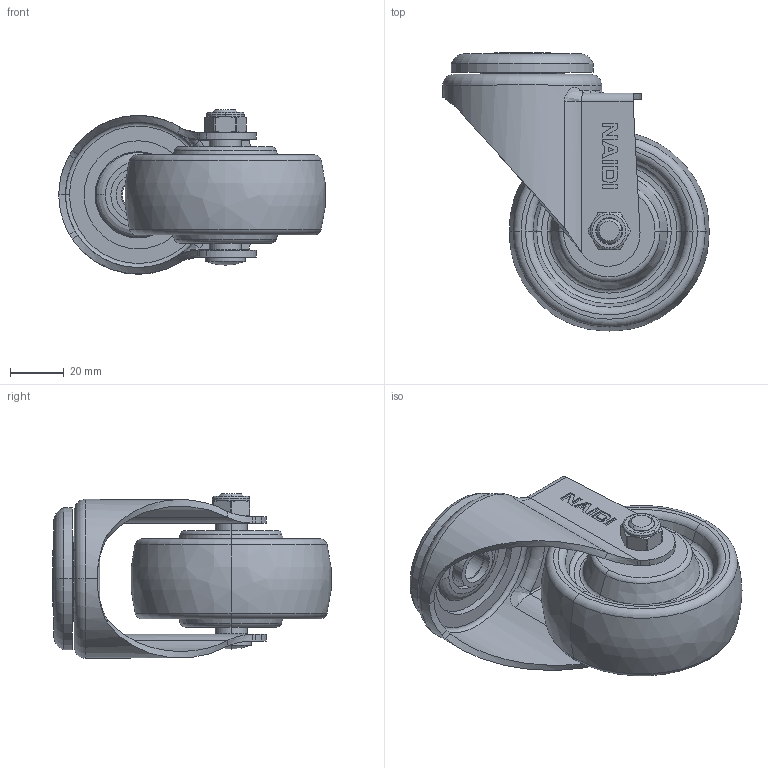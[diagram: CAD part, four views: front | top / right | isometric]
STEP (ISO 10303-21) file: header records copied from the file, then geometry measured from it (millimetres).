
FILE_DESCRIPTION((''),'2;1');
FILE_NAME('C54173_ASM','2024-10-10T',('Lenovo'),(''),'PRO/ENGINEER BY PARAMETRIC TECHNOLOGY CORPORATION, 2010280','PRO/ENGINEER BY PARAMETRIC TECHNOLOGY CORPORATION, 2010280','');
FILE_SCHEMA(('CONFIG_CONTROL_DESIGN'));
Length unit declared in the file: millimetre
Products named in the file (8): C543-11; 540-27; C540-03; C543-906; 500-54; 5710-020; 5710-031; C54173_ASM
Assembly tree (7 placements, depth 2):
  C54173_ASM
    C543-11
    540-27
    C540-03
    C543-906
    500-54
    5710-020
    5710-031
Bounding box: 99.47 x 103.81 x 61.4 mm (x, y, z)
Volume: 154111.6 mm3; surface area: 49600 mm2
Topology: 7 solids, 7 shells, 241 faces, 550 edges, 337 vertices
Faces by surface type: plane 90, cylinder 57, torus 38, cone 32, bspline 14, extrusion 8, sphere 2
Entity records: 8787 total; most frequent: CARTESIAN_POINT 3150, DIRECTION 1188, ORIENTED_EDGE 1096, EDGE_CURVE 548, AXIS2_PLACEMENT_3D 466, VERTEX_POINT 337, EDGE_LOOP 275, VECTOR 256
